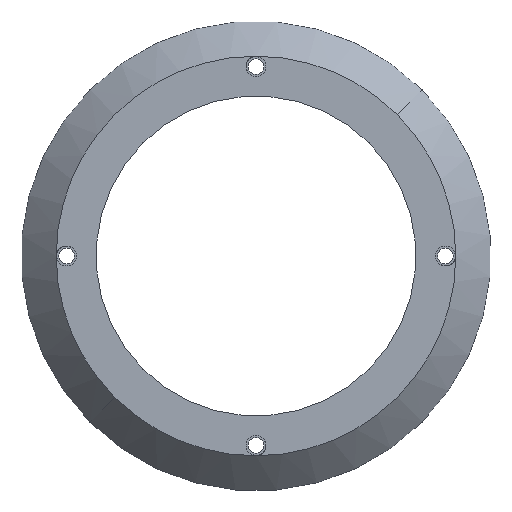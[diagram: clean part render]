
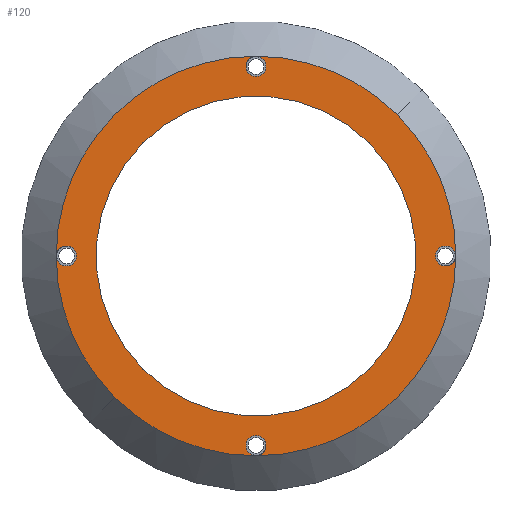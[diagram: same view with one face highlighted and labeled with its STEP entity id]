
A CAD part, left-side view. The second image highlights one B-rep face of the part: STEP entity #120.
In plain terms, the highlighted planar face has unit normal (-1, 0, 0).
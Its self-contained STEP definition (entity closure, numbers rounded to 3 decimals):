
#43=FACE_BOUND('',#208,.F.);
#44=FACE_BOUND('',#209,.F.);
#45=FACE_BOUND('',#210,.F.);
#46=FACE_BOUND('',#211,.F.);
#47=FACE_BOUND('',#212,.F.);
#57=PLANE('',#1103);
#120=ADVANCED_FACE('',(#43,#44,#45,#46,#47,#164),#57,.T.);
#164=FACE_OUTER_BOUND('',#213,.F.);
#208=EDGE_LOOP('',(#275,#276));
#209=EDGE_LOOP('',(#277,#278));
#210=EDGE_LOOP('',(#279,#280));
#211=EDGE_LOOP('',(#281,#282));
#212=EDGE_LOOP('',(#283,#284));
#213=EDGE_LOOP('',(#285,#286));
#275=ORIENTED_EDGE('',*,*,#879,.T.);
#276=ORIENTED_EDGE('',*,*,#869,.T.);
#277=ORIENTED_EDGE('',*,*,#885,.T.);
#278=ORIENTED_EDGE('',*,*,#886,.T.);
#279=ORIENTED_EDGE('',*,*,#866,.T.);
#280=ORIENTED_EDGE('',*,*,#865,.T.);
#281=ORIENTED_EDGE('',*,*,#889,.T.);
#282=ORIENTED_EDGE('',*,*,#890,.T.);
#283=ORIENTED_EDGE('',*,*,#861,.T.);
#284=ORIENTED_EDGE('',*,*,#860,.T.);
#285=ORIENTED_EDGE('',*,*,#880,.F.);
#286=ORIENTED_EDGE('',*,*,#870,.F.);
#860=EDGE_CURVE('',#1039,#1038,#956,.T.);
#861=EDGE_CURVE('',#1038,#1039,#957,.T.);
#865=EDGE_CURVE('',#1033,#1032,#961,.T.);
#866=EDGE_CURVE('',#1032,#1033,#962,.T.);
#869=EDGE_CURVE('',#1029,#1028,#965,.T.);
#870=EDGE_CURVE('',#1027,#1026,#966,.T.);
#879=EDGE_CURVE('',#1028,#1029,#969,.T.);
#880=EDGE_CURVE('',#1026,#1027,#970,.T.);
#885=EDGE_CURVE('',#1019,#1018,#975,.T.);
#886=EDGE_CURVE('',#1018,#1019,#976,.T.);
#889=EDGE_CURVE('',#1015,#1014,#979,.T.);
#890=EDGE_CURVE('',#1014,#1015,#980,.T.);
#956=CIRCLE('',#1074,1.);
#957=CIRCLE('',#1075,1.);
#961=CIRCLE('',#1079,1.);
#962=CIRCLE('',#1080,1.);
#965=CIRCLE('',#1083,16.);
#966=CIRCLE('',#1084,19.985);
#969=CIRCLE('',#1087,16.);
#970=CIRCLE('',#1088,19.985);
#975=CIRCLE('',#1093,1.);
#976=CIRCLE('',#1094,1.);
#979=CIRCLE('',#1097,1.);
#980=CIRCLE('',#1098,1.);
#1014=VERTEX_POINT('',#1436);
#1015=VERTEX_POINT('',#1437);
#1018=VERTEX_POINT('',#1440);
#1019=VERTEX_POINT('',#1441);
#1026=VERTEX_POINT('',#1448);
#1027=VERTEX_POINT('',#1449);
#1028=VERTEX_POINT('',#1450);
#1029=VERTEX_POINT('',#1451);
#1032=VERTEX_POINT('',#1454);
#1033=VERTEX_POINT('',#1455);
#1038=VERTEX_POINT('',#1460);
#1039=VERTEX_POINT('',#1461);
#1074=AXIS2_PLACEMENT_3D('',#1462,#1183,#1184);
#1075=AXIS2_PLACEMENT_3D('',#1463,#1185,#1186);
#1079=AXIS2_PLACEMENT_3D('',#1467,#1193,#1194);
#1080=AXIS2_PLACEMENT_3D('',#1468,#1195,#1196);
#1083=AXIS2_PLACEMENT_3D('',#1471,#1201,#1202);
#1084=AXIS2_PLACEMENT_3D('',#1472,#1203,#1204);
#1087=AXIS2_PLACEMENT_3D('',#1481,#1215,#1216);
#1088=AXIS2_PLACEMENT_3D('',#1482,#1217,#1218);
#1093=AXIS2_PLACEMENT_3D('',#1487,#1227,#1228);
#1094=AXIS2_PLACEMENT_3D('',#1488,#1229,#1230);
#1097=AXIS2_PLACEMENT_3D('',#1491,#1235,#1236);
#1098=AXIS2_PLACEMENT_3D('',#1492,#1237,#1238);
#1103=AXIS2_PLACEMENT_3D('',#1505,#1255,#1256);
#1183=DIRECTION('',(-1.,0.,0.));
#1184=DIRECTION('',(0.,0.707,-0.707));
#1185=DIRECTION('',(-1.,0.,0.));
#1186=DIRECTION('',(0.,-0.707,0.707));
#1193=DIRECTION('',(-1.,0.,0.));
#1194=DIRECTION('',(0.,0.707,-0.707));
#1195=DIRECTION('',(-1.,0.,0.));
#1196=DIRECTION('',(0.,-0.707,0.707));
#1201=DIRECTION('',(-1.,0.,0.));
#1202=DIRECTION('',(0.,0.707,-0.707));
#1203=DIRECTION('',(-1.,0.,0.));
#1204=DIRECTION('',(0.,0.707,-0.707));
#1215=DIRECTION('',(-1.,0.,0.));
#1216=DIRECTION('',(0.,-0.707,0.707));
#1217=DIRECTION('',(-1.,0.,0.));
#1218=DIRECTION('',(0.,-0.707,0.707));
#1227=DIRECTION('',(-1.,0.,0.));
#1228=DIRECTION('',(0.,-0.707,0.707));
#1229=DIRECTION('',(-1.,0.,0.));
#1230=DIRECTION('',(0.,0.707,-0.707));
#1235=DIRECTION('',(-1.,0.,0.));
#1236=DIRECTION('',(0.,-0.707,0.707));
#1237=DIRECTION('',(-1.,0.,0.));
#1238=DIRECTION('',(0.,0.707,-0.707));
#1255=DIRECTION('',(-1.,0.,0.));
#1256=DIRECTION('',(0.,0.707,0.707));
#1436=CARTESIAN_POINT('',(4.,-18.243,-0.707));
#1437=CARTESIAN_POINT('',(4.,-19.658,0.707));
#1440=CARTESIAN_POINT('',(4.,19.658,-0.707));
#1441=CARTESIAN_POINT('',(4.,18.243,0.707));
#1448=CARTESIAN_POINT('',(4.,-14.132,14.132));
#1449=CARTESIAN_POINT('',(4.,14.132,-14.132));
#1450=CARTESIAN_POINT('',(4.,-11.314,11.314));
#1451=CARTESIAN_POINT('',(4.,11.314,-11.314));
#1454=CARTESIAN_POINT('',(4.,-0.707,-18.243));
#1455=CARTESIAN_POINT('',(4.,0.707,-19.658));
#1460=CARTESIAN_POINT('',(4.,-0.707,19.658));
#1461=CARTESIAN_POINT('',(4.,0.707,18.243));
#1462=CARTESIAN_POINT('',(4.,0.,18.95));
#1463=CARTESIAN_POINT('',(4.,0.,18.95));
#1467=CARTESIAN_POINT('',(4.,0.,-18.95));
#1468=CARTESIAN_POINT('',(4.,0.,-18.95));
#1471=CARTESIAN_POINT('',(4.,0.,0.));
#1472=CARTESIAN_POINT('',(4.,0.,0.));
#1481=CARTESIAN_POINT('',(4.,0.,0.));
#1482=CARTESIAN_POINT('',(4.,0.,0.));
#1487=CARTESIAN_POINT('',(4.,18.95,0.));
#1488=CARTESIAN_POINT('',(4.,18.95,0.));
#1491=CARTESIAN_POINT('',(4.,-18.95,0.));
#1492=CARTESIAN_POINT('',(4.,-18.95,0.));
#1505=CARTESIAN_POINT('',(4.,-28.829,0.));
